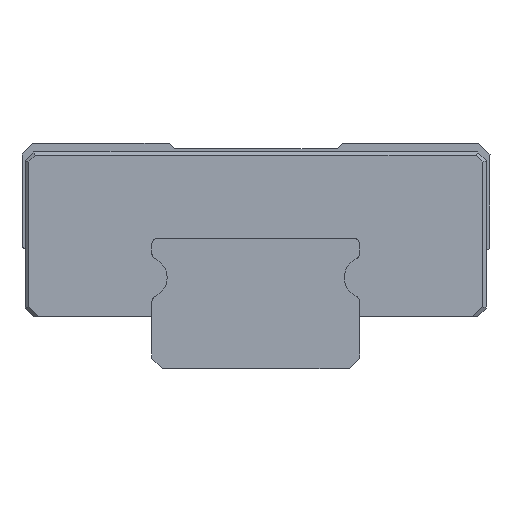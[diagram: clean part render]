
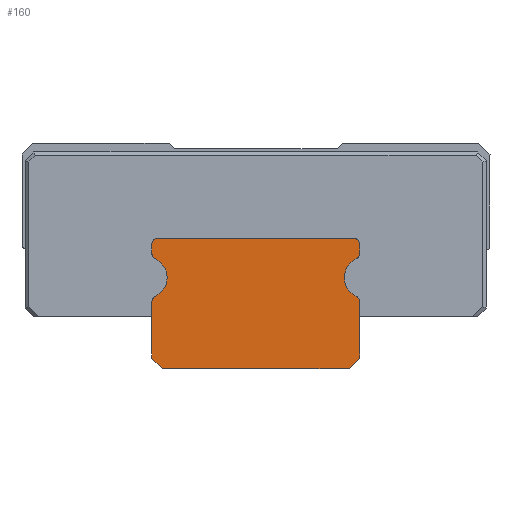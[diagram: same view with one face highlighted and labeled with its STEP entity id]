
A CAD part, front view. The second image highlights one B-rep face of the part: STEP entity #160.
In plain terms, the highlighted planar face has unit normal (0, -1, 0).
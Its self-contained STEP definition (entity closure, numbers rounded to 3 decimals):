
#160 = ADVANCED_FACE( '', ( #326 ), #327, .T. );
#326 = FACE_OUTER_BOUND( '', #574, .T. );
#327 = PLANE( '', #575 );
#574 = EDGE_LOOP( '', ( #1041, #1042, #1043, #1044, #1045, #1046, #1047, #1048, #1049, #1050, #1051, #1052, #1053, #1054, #1055, #1056 ) );
#575 = AXIS2_PLACEMENT_3D( '', #1057, #1058, #1059 );
#1041 = ORIENTED_EDGE( '', *, *, #1727, .F. );
#1042 = ORIENTED_EDGE( '', *, *, #1742, .T. );
#1043 = ORIENTED_EDGE( '', *, *, #1739, .T. );
#1044 = ORIENTED_EDGE( '', *, *, #1735, .T. );
#1045 = ORIENTED_EDGE( '', *, *, #1773, .T. );
#1046 = ORIENTED_EDGE( '', *, *, #1770, .T. );
#1047 = ORIENTED_EDGE( '', *, *, #1767, .T. );
#1048 = ORIENTED_EDGE( '', *, *, #1764, .T. );
#1049 = ORIENTED_EDGE( '', *, *, #1719, .T. );
#1050 = ORIENTED_EDGE( '', *, *, #1762, .T. );
#1051 = ORIENTED_EDGE( '', *, *, #1759, .T. );
#1052 = ORIENTED_EDGE( '', *, *, #1756, .T. );
#1053 = ORIENTED_EDGE( '', *, *, #1753, .T. );
#1054 = ORIENTED_EDGE( '', *, *, #1750, .T. );
#1055 = ORIENTED_EDGE( '', *, *, #1747, .T. );
#1056 = ORIENTED_EDGE( '', *, *, #1744, .T. );
#1057 = CARTESIAN_POINT( '', ( 95.438, 10., -11.4 ) );
#1058 = DIRECTION( '', ( 0., -1., 0. ) );
#1059 = DIRECTION( '', ( -1., 0., 0. ) );
#1719 = EDGE_CURVE( '', #2057, #2058, #2059, .T. );
#1727 = EDGE_CURVE( '', #2069, #2070, #2071, .T. );
#1735 = EDGE_CURVE( '', #2081, #2082, #2083, .T. );
#1739 = EDGE_CURVE( '', #2089, #2081, #2090, .T. );
#1742 = EDGE_CURVE( '', #2069, #2089, #2094, .T. );
#1744 = EDGE_CURVE( '', #2096, #2070, #2097, .T. );
#1747 = EDGE_CURVE( '', #2101, #2096, #2102, .T. );
#1750 = EDGE_CURVE( '', #2106, #2101, #2107, .T. );
#1753 = EDGE_CURVE( '', #2111, #2106, #2112, .T. );
#1756 = EDGE_CURVE( '', #2116, #2111, #2117, .T. );
#1759 = EDGE_CURVE( '', #2121, #2116, #2122, .T. );
#1762 = EDGE_CURVE( '', #2058, #2121, #2126, .T. );
#1764 = EDGE_CURVE( '', #2128, #2057, #2129, .T. );
#1767 = EDGE_CURVE( '', #2133, #2128, #2134, .T. );
#1770 = EDGE_CURVE( '', #2138, #2133, #2139, .T. );
#1773 = EDGE_CURVE( '', #2082, #2138, #2143, .T. );
#2057 = VERTEX_POINT( '', #2563 );
#2058 = VERTEX_POINT( '', #2564 );
#2059 = LINE( '', #2565, #2566 );
#2069 = VERTEX_POINT( '', #2579 );
#2070 = VERTEX_POINT( '', #2580 );
#2071 = LINE( '', #2581, #2582 );
#2081 = VERTEX_POINT( '', #2595 );
#2082 = VERTEX_POINT( '', #2596 );
#2083 = CIRCLE( '', #2597, 0.3 );
#2089 = VERTEX_POINT( '', #2605 );
#2090 = LINE( '', #2606, #2607 );
#2094 = CIRCLE( '', #2613, 0.3 );
#2096 = VERTEX_POINT( '', #2615 );
#2097 = CIRCLE( '', #2616, 0.3 );
#2101 = VERTEX_POINT( '', #2621 );
#2102 = LINE( '', #2622, #2623 );
#2106 = VERTEX_POINT( '', #2629 );
#2107 = CIRCLE( '', #2630, 0.3 );
#2111 = VERTEX_POINT( '', #2635 );
#2112 = CIRCLE( '', #2636, 1.191 );
#2116 = VERTEX_POINT( '', #2641 );
#2117 = CIRCLE( '', #2642, 0.3 );
#2121 = VERTEX_POINT( '', #2649 );
#2122 = LINE( '', #2650, #2651 );
#2126 = LINE( '', #2657, #2658 );
#2128 = VERTEX_POINT( '', #2661 );
#2129 = LINE( '', #2662, #2663 );
#2133 = VERTEX_POINT( '', #2669 );
#2134 = LINE( '', #2670, #2671 );
#2138 = VERTEX_POINT( '', #2679 );
#2139 = CIRCLE( '', #2680, 0.3 );
#2143 = CIRCLE( '', #2685, 1.191 );
#2563 = CARTESIAN_POINT( '', ( 104.613, 10., -9.9 ) );
#2564 = CARTESIAN_POINT( '', ( 115.388, 10., -9.9 ) );
#2565 = CARTESIAN_POINT( '', ( 115.388, 10., -9.9 ) );
#2566 = VECTOR( '', #3248, 1. );
#2579 = CARTESIAN_POINT( '', ( 104.313, 10., -2.4 ) );
#2580 = CARTESIAN_POINT( '', ( 115.688, 10., -2.4 ) );
#2581 = CARTESIAN_POINT( '', ( 95.438, 10., -2.4 ) );
#2582 = VECTOR( '', #3264, 1. );
#2595 = CARTESIAN_POINT( '', ( 104.013, 10., -3.291 ) );
#2596 = CARTESIAN_POINT( '', ( 104.189, 10., -3.564 ) );
#2597 = AXIS2_PLACEMENT_3D( '', #3280, #3281, #3282 );
#2605 = CARTESIAN_POINT( '', ( 104.013, 10., -2.7 ) );
#2606 = CARTESIAN_POINT( '', ( 104.013, 10., -3.291 ) );
#2607 = VECTOR( '', #3288, 1. );
#2613 = AXIS2_PLACEMENT_3D( '', #3291, #3292, #3293 );
#2615 = CARTESIAN_POINT( '', ( 115.988, 10., -2.7 ) );
#2616 = AXIS2_PLACEMENT_3D( '', #3297, #3298, #3299 );
#2621 = CARTESIAN_POINT( '', ( 115.988, 10., -3.291 ) );
#2622 = CARTESIAN_POINT( '', ( 115.988, 10., -2.7 ) );
#2623 = VECTOR( '', #3304, 1. );
#2629 = CARTESIAN_POINT( '', ( 115.811, 10., -3.564 ) );
#2630 = AXIS2_PLACEMENT_3D( '', #3307, #3308, #3309 );
#2635 = CARTESIAN_POINT( '', ( 115.811, 10., -5.736 ) );
#2636 = AXIS2_PLACEMENT_3D( '', #3314, #3315, #3316 );
#2641 = CARTESIAN_POINT( '', ( 115.988, 10., -6.009 ) );
#2642 = AXIS2_PLACEMENT_3D( '', #3321, #3322, #3323 );
#2649 = CARTESIAN_POINT( '', ( 116., 10., -9.288 ) );
#2650 = CARTESIAN_POINT( '', ( 116., 10., -6.009 ) );
#2651 = VECTOR( '', #3327, 1. );
#2657 = CARTESIAN_POINT( '', ( 115.988, 10., -9.3 ) );
#2658 = VECTOR( '', #3330, 1. );
#2661 = CARTESIAN_POINT( '', ( 104., 10., -9.288 ) );
#2662 = CARTESIAN_POINT( '', ( 104.612, 10., -9.9 ) );
#2663 = VECTOR( '', #3332, 1. );
#2669 = CARTESIAN_POINT( '', ( 104., 10., -6.009 ) );
#2670 = CARTESIAN_POINT( '', ( 104., 10., -9.3 ) );
#2671 = VECTOR( '', #3335, 1. );
#2679 = CARTESIAN_POINT( '', ( 104.189, 10., -5.736 ) );
#2680 = AXIS2_PLACEMENT_3D( '', #3337, #3338, #3339 );
#2685 = AXIS2_PLACEMENT_3D( '', #3344, #3345, #3346 );
#3248 = DIRECTION( '', ( 1., 0., 0. ) );
#3264 = DIRECTION( '', ( 1., 0., 0. ) );
#3280 = CARTESIAN_POINT( '', ( 104.313, 10., -3.291 ) );
#3281 = DIRECTION( '', ( 0., -1., 0. ) );
#3282 = DIRECTION( '', ( 1., 0., 0. ) );
#3288 = DIRECTION( '', ( 0., 0., -1. ) );
#3291 = CARTESIAN_POINT( '', ( 104.313, 10., -2.7 ) );
#3292 = DIRECTION( '', ( 0., -1., 0. ) );
#3293 = DIRECTION( '', ( 1., 0., 0. ) );
#3297 = CARTESIAN_POINT( '', ( 115.688, 10., -2.7 ) );
#3298 = DIRECTION( '', ( 0., -1., 0. ) );
#3299 = DIRECTION( '', ( 1., 0., 0. ) );
#3304 = DIRECTION( '', ( 0., 0., 1. ) );
#3307 = CARTESIAN_POINT( '', ( 115.688, 10., -3.291 ) );
#3308 = DIRECTION( '', ( 0., -1., 0. ) );
#3309 = DIRECTION( '', ( 1., 0., 0. ) );
#3314 = CARTESIAN_POINT( '', ( 116.3, 10., -4.65 ) );
#3315 = DIRECTION( '', ( 0., 1., 0. ) );
#3316 = DIRECTION( '', ( 1., 0., 0. ) );
#3321 = CARTESIAN_POINT( '', ( 115.688, 10., -6.009 ) );
#3322 = DIRECTION( '', ( 0., -1., 0. ) );
#3323 = DIRECTION( '', ( 1., 0., 0. ) );
#3327 = DIRECTION( '', ( 0., 0., 1. ) );
#3330 = DIRECTION( '', ( 0.707, 0., 0.707 ) );
#3332 = DIRECTION( '', ( 0.707, 0., -0.707 ) );
#3335 = DIRECTION( '', ( 0., 0., -1. ) );
#3337 = CARTESIAN_POINT( '', ( 104.313, 10., -6.009 ) );
#3338 = DIRECTION( '', ( 0., -1., 0. ) );
#3339 = DIRECTION( '', ( 1., 0., 0. ) );
#3344 = CARTESIAN_POINT( '', ( 103.7, 10., -4.65 ) );
#3345 = DIRECTION( '', ( 0., 1., 0. ) );
#3346 = DIRECTION( '', ( 1., 0., 0. ) );
